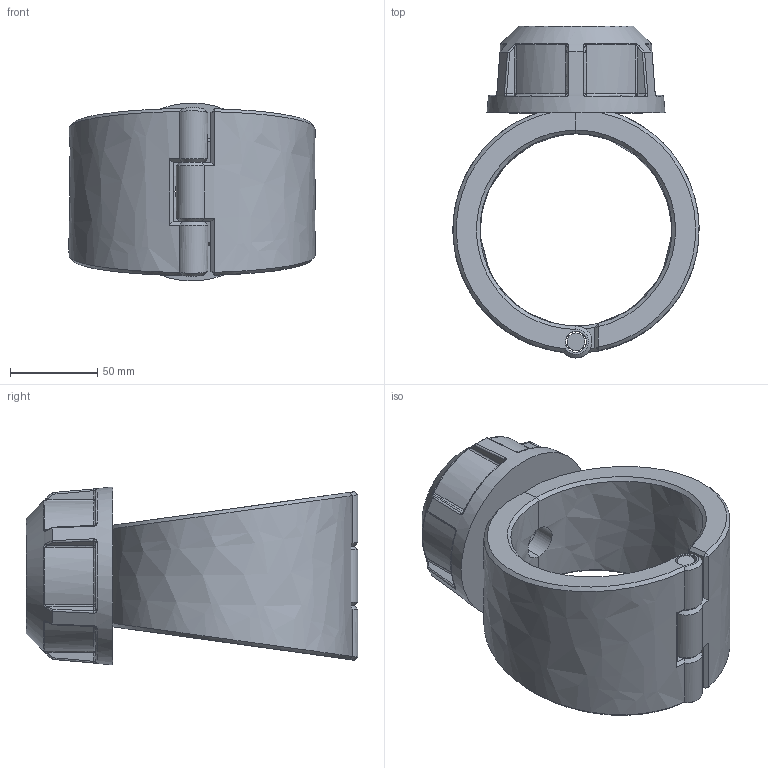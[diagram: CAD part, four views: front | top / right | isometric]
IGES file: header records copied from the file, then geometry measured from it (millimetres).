
Global section: file name: 163000110013; native system: Autodesk Inventor 2019; preprocessor: unknown; author: comp2; date: 20220203.114758; units: millimetre
Bounding box: 140.99 x 190 x 101.89 mm (x, y, z)
Volume: 710849.3 mm3; surface area: 114855.3 mm2
Topology: 4 solids, 4 shells, 203 faces, 486 edges, 293 vertices
Faces by surface type: bspline 203
